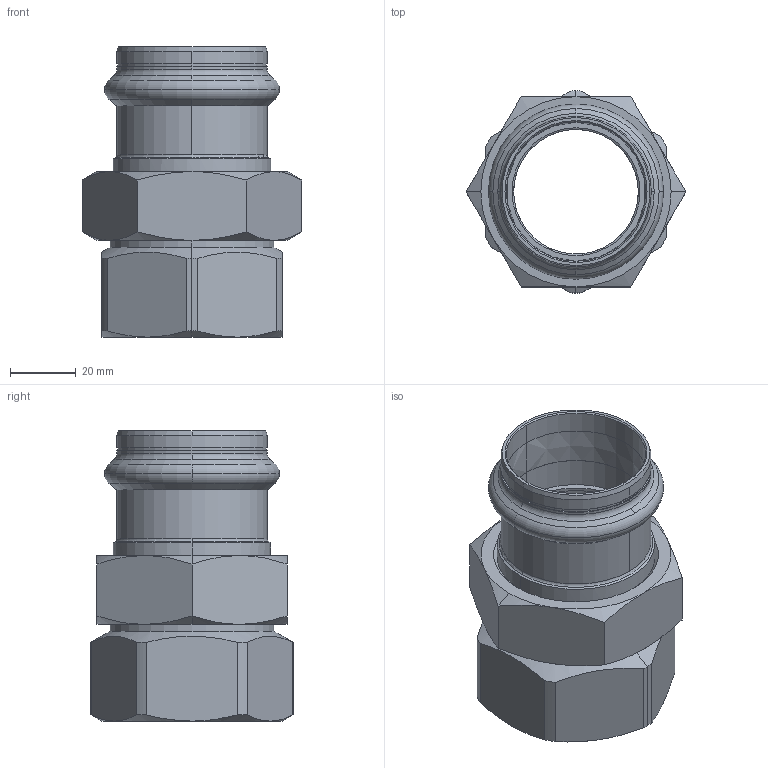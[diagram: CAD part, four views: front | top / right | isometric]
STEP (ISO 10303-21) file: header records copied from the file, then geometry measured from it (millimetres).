
FILE_DESCRIPTION(('CoCreate Modeling STEP Export'),'2;1');
FILE_NAME('8330GVW42112.stp','2013-03-05T13:23:11',(''),(''),'CoCreate Modeling STEP processor for AP214 (Solid Model)','CoCreate Modeling 17.00A 17-Jun-2010 (C) Parametric Technology GmbH','');
FILE_SCHEMA(('AUTOMOTIVE_DESIGN { 1 0 10303 214 1 1 1 1 }'));
Length unit declared in the file: millimetre
Products named in the file (4): DRAAD; MOER; Wartelpuntstuk_C-PR_42x7.1; 8330GVW42112
Assembly tree (3 placements, depth 2):
  8330GVW42112
    Wartelpuntstuk_C-PR_42x7.1
    MOER
    DRAAD
Bounding box: 66.97 x 61.62 x 88.5 mm (x, y, z)
Volume: 77697.3 mm3; surface area: 39175.2 mm2
Topology: 3 solids, 3 shells, 142 faces, 341 edges, 209 vertices
Faces by surface type: cone 60, cylinder 46, plane 22, torus 14
Entity records: 5217 total; most frequent: CARTESIAN_POINT 2424, ORIENTED_EDGE 682, DIRECTION 388, EDGE_CURVE 341, VERTEX_POINT 209, EDGE_LOOP 152, FACE_OUTER_BOUND 142, ADVANCED_FACE 142
